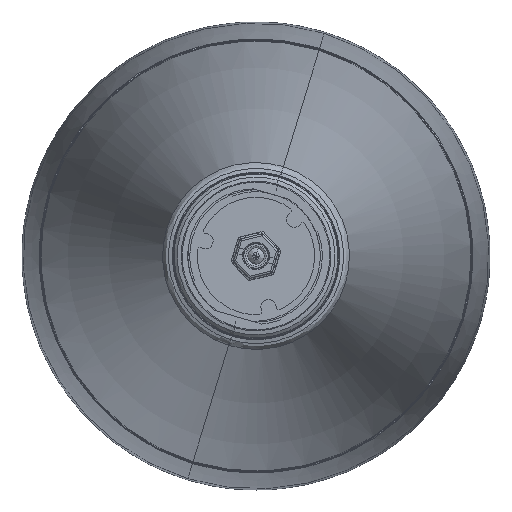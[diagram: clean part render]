
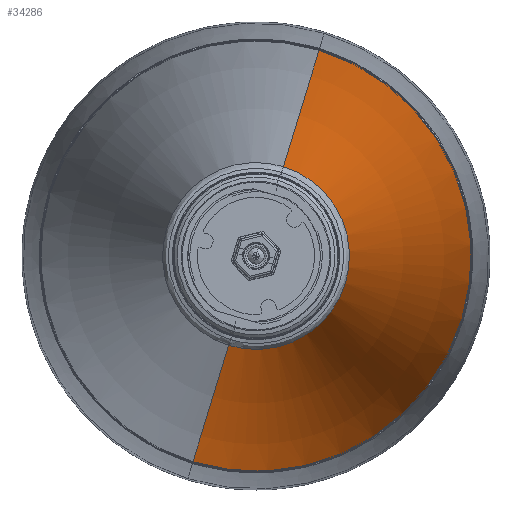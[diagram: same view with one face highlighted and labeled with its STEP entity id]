
A CAD part, front view. The second image highlights one B-rep face of the part: STEP entity #34286.
In plain terms, the highlighted toroidal (fillet/blend) face has major radius 2425.65 mm and minor radius 2541 mm.
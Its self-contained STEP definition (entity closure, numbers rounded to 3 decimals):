
#32 = DIRECTION ( 'NONE',  ( 0.956, 0., -0.293 ) ) ;
#201 = CARTESIAN_POINT ( 'NONE',  ( -13.54, 3.842, -44.19 ) ) ;
#1594 = CARTESIAN_POINT ( 'NONE',  ( 31.271, 383.577, 102.058 ) ) ;
#2013 = DIRECTION ( 'NONE',  ( 0., -1., 0. ) ) ;
#2182 = VERTEX_POINT ( 'NONE', #1594 ) ;
#2537 = DIRECTION ( 'NONE',  ( -0.293, 0., -0.956 ) ) ;
#3004 = CARTESIAN_POINT ( 'NONE',  ( 0., 383.577, 0. ) ) ;
#4612 = CARTESIAN_POINT ( 'NONE',  ( -710.617, 592.507, -2319.229 ) ) ;
#4878 = CARTESIAN_POINT ( 'NONE',  ( 0., 3.842, 0. ) ) ;
#5549 = VERTEX_POINT ( 'NONE', #38873 ) ;
#5865 = FACE_OUTER_BOUND ( 'NONE', #16582, .T. ) ;
#10313 = ORIENTED_EDGE ( 'NONE', *, *, #38160, .T. ) ;
#11268 = CIRCLE ( 'NONE', #13597, 106.741 ) ;
#12383 = AXIS2_PLACEMENT_3D ( 'NONE', #4878, #40886, #18883 ) ;
#13565 = AXIS2_PLACEMENT_3D ( 'NONE', #27840, #2013, #42594 ) ;
#13597 = AXIS2_PLACEMENT_3D ( 'NONE', #3004, #35624, #2537 ) ;
#15153 = ORIENTED_EDGE ( 'NONE', *, *, #29519, .F. ) ;
#16582 = EDGE_LOOP ( 'NONE', ( #35086, #10313, #38362, #15153 ) ) ;
#17422 = TOROIDAL_SURFACE ( 'NONE', #13565, -2425.654, 2541. ) ;
#18883 = DIRECTION ( 'NONE',  ( -0.293, 0., -0.956 ) ) ;
#19260 = VERTEX_POINT ( 'NONE', #201 ) ;
#20309 = DIRECTION ( 'NONE',  ( -0.956, 0., 0.293 ) ) ;
#20602 = AXIS2_PLACEMENT_3D ( 'NONE', #32369, #20309, #38674 ) ;
#25154 = CARTESIAN_POINT ( 'NONE',  ( -31.271, 383.577, -102.058 ) ) ;
#27840 = CARTESIAN_POINT ( 'NONE',  ( 0., 592.507, 0. ) ) ;
#29519 = EDGE_CURVE ( 'NONE', #39367, #19260, #30627, .T. ) ;
#30568 = CIRCLE ( 'NONE', #35209, 2541. ) ;
#30627 = CIRCLE ( 'NONE', #20602, 2541. ) ;
#32369 = CARTESIAN_POINT ( 'NONE',  ( 710.617, 592.507, 2319.229 ) ) ;
#32525 = EDGE_CURVE ( 'NONE', #19260, #5549, #39425, .T. ) ;
#33359 = DIRECTION ( 'NONE',  ( -0.293, 0., -0.956 ) ) ;
#34286 = ADVANCED_FACE ( 'NONE', ( #5865 ), #17422, .T. ) ;
#35086 = ORIENTED_EDGE ( 'NONE', *, *, #38715, .T. ) ;
#35209 = AXIS2_PLACEMENT_3D ( 'NONE', #4612, #32, #33359 ) ;
#35624 = DIRECTION ( 'NONE',  ( 0., -1., 0. ) ) ;
#38160 = EDGE_CURVE ( 'NONE', #2182, #5549, #30568, .T. ) ;
#38362 = ORIENTED_EDGE ( 'NONE', *, *, #32525, .F. ) ;
#38674 = DIRECTION ( 'NONE',  ( 0.293, 0., 0.956 ) ) ;
#38715 = EDGE_CURVE ( 'NONE', #39367, #2182, #11268, .T. ) ;
#38873 = CARTESIAN_POINT ( 'NONE',  ( 13.54, 3.842, 44.19 ) ) ;
#39367 = VERTEX_POINT ( 'NONE', #25154 ) ;
#39425 = CIRCLE ( 'NONE', #12383, 46.218 ) ;
#40886 = DIRECTION ( 'NONE',  ( 0., -1., 0. ) ) ;
#42594 = DIRECTION ( 'NONE',  ( -0.293, 0., -0.956 ) ) ;
